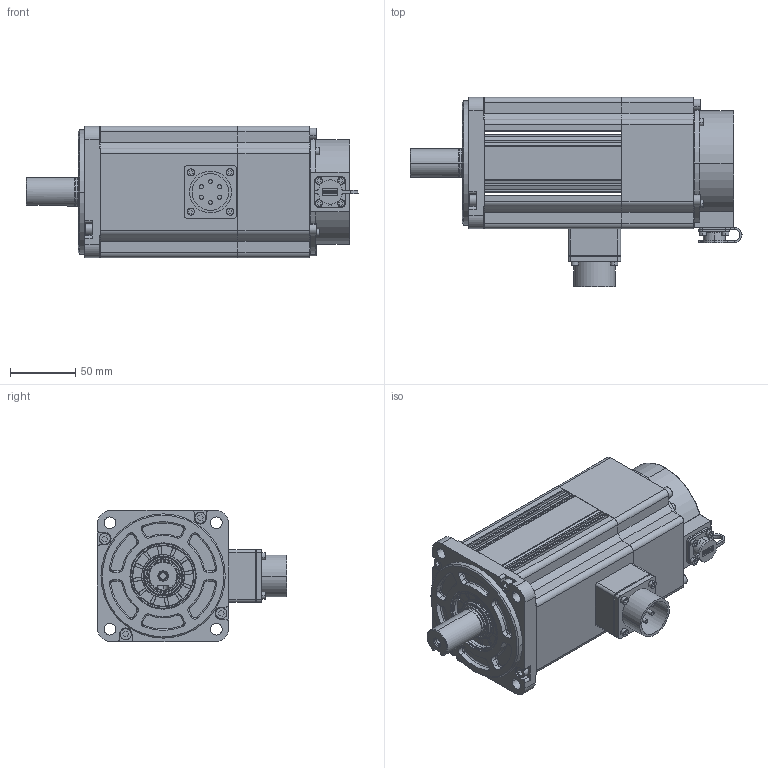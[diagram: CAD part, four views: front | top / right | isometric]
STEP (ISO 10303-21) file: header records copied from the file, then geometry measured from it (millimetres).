
FILE_DESCRIPTION (( 'STEP AP203' ), '1' );
FILE_NAME ('MS6S-100CS30BZ1-21P5（民用）.STEP', '2020-11-05T07:42:17', ( '' ), ( '' ), 'SwSTEP 2.0', 'SolidWorks 2016', '' );
FILE_SCHEMA (( 'CONFIG_CONTROL_DESIGN' ));
Length unit declared in the file: millimetre
Products named in the file (1): MS6S-100CS30BZ1-21P5（民用）
Bounding box: 253.8 x 144.5 x 100.3 mm (x, y, z)
Surface area: 135323.8 mm2 (no closed solid volume)
Topology: 0 solids, 32 shells, 833 faces, 2680 edges, 1891 vertices
Faces by surface type: plane 397, cylinder 271, torus 89, cone 41, bspline 35
Entity records: 31514 total; most frequent: CARTESIAN_POINT 7882, DIRECTION 4972, ORIENTED_EDGE 4543, EDGE_CURVE 2680, VERTEX_POINT 1891, AXIS2_PLACEMENT_3D 1776, VECTOR 1420, LINE 1420
